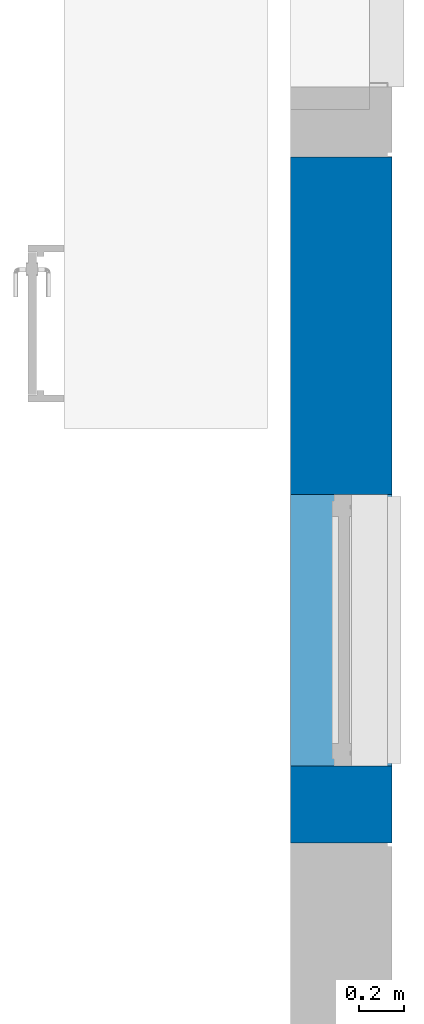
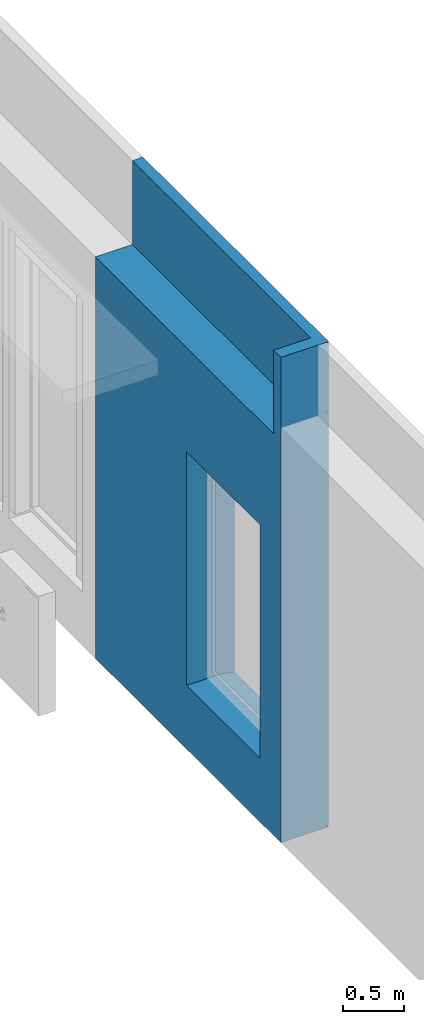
# One storey, part 21 of 33: 1 wall, 3 openings.
"""IFC2X3 building model written with IfcOpenShell, lengths in millimetres."""

from ifc_helpers import new_model, entity, si_unit, converted_unit, derived_unit, direction, frame, frame_2d, origin, place, context, subcontext, project, spatial, polyline, rectangle, extrude, clip, bounded_halfspace, faceted_brep, material, layer, layer_set, layer_usage, type_object, element, save


model = new_model("IFC2X3")

# Units and contexts
model_context = context("Model", 3, precision=0.01, world=origin(), true_north=direction((6.12303176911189e-17, 1.0)))
body_context = subcontext(model_context, "Body", "Model", "MODEL_VIEW")
ifc_project = project(units=[si_unit("LENGTHUNIT", "METRE", prefix="MILLI"), si_unit("AREAUNIT", "SQUARE_METRE"), si_unit("VOLUMEUNIT", "CUBIC_METRE"), converted_unit("PLANEANGLEUNIT", "DEGREE", entity("IfcRatioMeasure", 0.0174532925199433), si_unit("PLANEANGLEUNIT", "RADIAN"), dimensions=[0, 0, 0, 0, 0, 0, 0]), si_unit("MASSUNIT", "GRAM", prefix="KILO"), derived_unit("MASSDENSITYUNIT", [(si_unit("MASSUNIT", "GRAM", prefix="KILO"), 1), (si_unit("LENGTHUNIT", "METRE"), -3)]), si_unit("TIMEUNIT", "SECOND"), si_unit("FREQUENCYUNIT", "HERTZ"), si_unit("THERMODYNAMICTEMPERATUREUNIT", "DEGREE_CELSIUS"), derived_unit("THERMALTRANSMITTANCEUNIT", [(si_unit("MASSUNIT", "GRAM", prefix="KILO"), 1), (si_unit("THERMODYNAMICTEMPERATUREUNIT", "KELVIN"), -1), (si_unit("TIMEUNIT", "SECOND"), -3)]), derived_unit("VOLUMETRICFLOWRATEUNIT", [(si_unit("LENGTHUNIT", "METRE"), 3), (si_unit("TIMEUNIT", "SECOND"), -1)]), si_unit("ELECTRICCURRENTUNIT", "AMPERE"), si_unit("ELECTRICVOLTAGEUNIT", "VOLT"), si_unit("POWERUNIT", "WATT"), si_unit("FORCEUNIT", "NEWTON", prefix="KILO"), si_unit("ILLUMINANCEUNIT", "LUX"), si_unit("LUMINOUSFLUXUNIT", "LUMEN"), si_unit("LUMINOUSINTENSITYUNIT", "CANDELA"), derived_unit("USERDEFINED", [(si_unit("MASSUNIT", "GRAM", prefix="KILO"), -1), (si_unit("LENGTHUNIT", "METRE"), -2), (si_unit("TIMEUNIT", "SECOND"), 3), (si_unit("LUMINOUSFLUXUNIT", "LUMEN"), 1)]), derived_unit("LINEARVELOCITYUNIT", [(si_unit("LENGTHUNIT", "METRE"), 1), (si_unit("TIMEUNIT", "SECOND"), -1)]), si_unit("PRESSUREUNIT", "PASCAL"), derived_unit("USERDEFINED", [(si_unit("LENGTHUNIT", "METRE"), -2), (si_unit("MASSUNIT", "GRAM", prefix="KILO"), 1), (si_unit("TIMEUNIT", "SECOND"), -2)])], contexts=[model_context])

# Site, building, storey
site_placement = place(None, origin())
site = spatial("IfcSite", under=ifc_project, at=site_placement, Name="Default", CompositionType="ELEMENT")
building_placement = place(site_placement, origin())
building = spatial("IfcBuilding", under=site, at=building_placement, CompositionType="ELEMENT")
storey_placement = place(building_placement, frame((0.0, 0.0, 4000.0)))
storey = spatial("IfcBuildingStorey", under=building, at=storey_placement, Name="2. KORRUS", CompositionType="ELEMENT", Elevation=4000.0)

# Wall, openings
ifc_material_1 = material(Name="RECKLI 1 173 THUR by Polantis 2016-toon2")
ifc_layer_1 = layer(ifc_material_1, 100.0)
ifc_material_2 = material(Name="Soojusisolatsioon EPS")
ifc_layer_2 = layer(ifc_material_2, 200.0)
ifc_material_3 = material(Name="r/b")
ifc_layer_3 = layer(ifc_material_3, 150.0)
ifc_layer_set = layer_set([ifc_layer_1, ifc_layer_2, ifc_layer_3], Name="Basic Wall:VS-1_toon-c")
ifc_layer_usage = layer_usage(ifc_layer_set, "AXIS2", "NEGATIVE", 225.0)
wall_type = type_object("IfcWallType", Name="Basic Wall:VS-1_toon-c", PredefinedType="STANDARD", material=ifc_layer_set)
wall_placement = place(storey_placement, frame((39725.0, 15790.0, -135.0), z_axis=(0.0, 0.0, 1.0), x_axis=(0.0, -1.0, 0.0)))
wall = element("IfcWallStandardCase", 1, at=wall_placement, inside=storey, type_object=wall_type, material=ifc_layer_usage, Name="Basic Wall:VS-1_toon-c", ObjectType="Basic Wall:VS-1_toon-c", context=body_context, shape_type="Clipping", body=[
    clip(extrude(rectangle(XDim=3030.00000002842, YDim=450.000000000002, at=frame_2d((1515.00000001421, -1.86162196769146e-12), x_axis=(-1.0, 0.0))), origin(), (0.0, 0.0, 1.0), 4835.0), bounded_halfspace(frame((0.0, -225.0, 4000.0), z_axis=(0.0, 0.0, 1.0), x_axis=(0.0, 1.0, 0.0)), False, frame((0.0, -225.0, 4000.0)), polyline([(0.0, 0.0), (2910.0, 0.0), (2910.0, 350.0), (0.0, 350.0), (0.0, 0.0)]))),
])
opening_1_placement = place(wall_placement, frame((16240.0, -40175.0, 4.0)))
element("IfcOpeningElement", 2, at=opening_1_placement, cuts=wall, Name="Basic Wall:VS-1_toon-c", ObjectType="Opening", context=body_context, shape_type="Brep", body=[
    faceted_brep([(-20.0, 11850.0, 16.0), (0.0, 11850.0, 16.0), (0.0, 11850.0, 0.0), (-20.0, 11850.0, 0.0), (-20.0, 4260.0, 16.0), (-20.0, 4260.0, 0.0), (0.0, 4260.0, 0.0), (0.0, 4260.0, 16.0)], [[[0, 1, 2, 3]], [[4, 5, 6, 7]], [[1, 0, 4, 7]], [[2, 1, 7, 6]], [[3, 2, 6, 5]], [[0, 3, 5, 4]]]),
    faceted_brep([(-28480.0, 20.0, 16.0), (-28480.0, 20.0, 0.0), (-28500.0, 0.0, 0.0), (-28500.0, 0.0, 16.0), (-23740.0, 20.0, 16.0), (-23740.0, 0.0, 16.0), (-23740.0, 0.0, 0.0), (-23740.0, 20.0, 0.0)], [[[0, 1, 2, 3]], [[4, 5, 6, 7]], [[1, 0, 4, 7]], [[2, 1, 7, 6]], [[3, 2, 6, 5]], [[0, 3, 5, 4]]]),
    faceted_brep([(-22380.0517807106, 10080.0, 16.0), (-22400.0517807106, 10100.0, 16.0), (-22400.0517807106, 10100.0, 0.0), (-22380.0517807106, 10080.0, 0.0), (-22380.0517807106, 15330.3475962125, 16.0), (-22380.0517807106, 15330.3475962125, 0.0), (-22400.0517807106, 15330.3475962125, 0.0), (-22400.0517807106, 15330.3475962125, 16.0)], [[[0, 1, 2, 3]], [[4, 5, 6, 7]], [[1, 0, 4, 7]], [[2, 1, 7, 6]], [[3, 2, 6, 5]], [[0, 3, 5, 4]]]),
    faceted_brep([(-28480.0, 20.0, 16.0), (-28500.0, 0.0, 16.0), (-28500.0, 0.0, 0.0), (-28480.0, 20.0, 0.0), (-28480.0, 4360.0, 16.0), (-28480.0, 4360.0, 0.0), (-28500.0, 4360.0, 0.0), (-28500.0, 4360.0, 16.0)], [[[0, 1, 2, 3]], [[4, 5, 6, 7]], [[1, 0, 4, 7]], [[2, 1, 7, 6]], [[3, 2, 6, 5]], [[0, 3, 5, 4]]]),
    faceted_brep([(-20.0, 40380.0, 16.0), (0.0, 40400.0, 16.0), (0.0, 40400.0, 0.0), (-20.0, 40380.0, 0.0), (-20.0, 35250.0, 16.0), (-20.0, 35250.0, 0.0), (0.0, 35250.0, 0.0), (0.0, 35250.0, 16.0)], [[[0, 1, 2, 3]], [[4, 5, 6, 7]], [[1, 0, 4, 7]], [[2, 1, 7, 6]], [[3, 2, 6, 5]], [[0, 3, 5, 4]]]),
    faceted_brep([(-22380.0517807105, 34420.103570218, 16.0), (-22400.0517807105, 34420.103570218, 16.0), (-22400.0517807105, 34420.103570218, 0.0), (-22380.0517807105, 34420.103570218, 0.0), (-22380.0517807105, 40380.0, 16.0), (-22380.0517807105, 40380.0, 0.0), (-22400.0517807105, 40400.0, 0.0), (-22400.0517807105, 40400.0, 16.0)], [[[0, 1, 2, 3]], [[4, 5, 6, 7]], [[1, 0, 4, 7]], [[2, 1, 7, 6]], [[3, 2, 6, 5]], [[0, 3, 5, 4]]]),
    faceted_brep([(-22380.0517807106, 29113.2161487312, 16.0), (-22400.0517807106, 29113.2161487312, 16.0), (-22400.0517807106, 29113.2161487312, 0.0), (-22380.0517807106, 29113.2161487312, 0.0), (-22380.0517807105, 34420.103570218, 16.0), (-22380.0517807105, 34420.103570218, 0.0), (-22400.0517807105, 34420.103570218, 0.0), (-22400.0517807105, 34420.103570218, 16.0)], [[[0, 1, 2, 3]], [[4, 5, 6, 7]], [[1, 0, 4, 7]], [[2, 1, 7, 6]], [[3, 2, 6, 5]], [[0, 3, 5, 4]]]),
    faceted_brep([(-28480.0, 10080.0, 16.0), (-28500.0, 10100.0, 16.0), (-28500.0, 10100.0, 0.0), (-28480.0, 10080.0, 0.0), (-22380.0517807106, 10080.0, 16.0), (-22380.0517807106, 10080.0, 0.0), (-22400.0517807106, 10100.0, 0.0), (-22400.0517807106, 10100.0, 16.0)], [[[0, 1, 2, 3]], [[4, 5, 6, 7]], [[1, 0, 4, 7]], [[2, 1, 7, 6]], [[3, 2, 6, 5]], [[0, 3, 5, 4]]]),
    faceted_brep([(-20.0, 4260.0, 16.0), (0.0, 4260.0, 16.0), (0.0, 4260.0, 0.0), (-20.0, 4260.0, 0.0), (-20.0, 0.0, 16.0), (-20.0, 0.0, 0.0), (0.0, 0.0, 0.0), (0.0, 0.0, 16.0)], [[[0, 1, 2, 3]], [[4, 5, 6, 7]], [[1, 0, 4, 7]], [[2, 1, 7, 6]], [[3, 2, 6, 5]], [[0, 3, 5, 4]]]),
    faceted_brep([(-4865.0, 40380.0, 16.0), (-4865.0, 40400.0, 16.0), (-4865.0, 40400.0, 0.0), (-4865.0, 40380.0, 0.0), (-20.0, 40380.0, 16.0), (-20.0, 40380.0, 0.0), (0.0, 40400.0, 0.0), (0.0, 40400.0, 16.0)], [[[0, 1, 2, 3]], [[4, 5, 6, 7]], [[1, 0, 4, 7]], [[2, 1, 7, 6]], [[3, 2, 6, 5]], [[0, 3, 5, 4]]]),
    faceted_brep([(-9093.33000000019, 40380.0, 16.0), (-9093.33000000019, 40400.0, 16.0), (-9093.33000000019, 40400.0, 0.0), (-9093.33000000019, 40380.0, 0.0), (-4865.0, 40380.0, 16.0), (-4865.0, 40380.0, 0.0), (-4865.0, 40400.0, 0.0), (-4865.0, 40400.0, 16.0)], [[[0, 1, 2, 3]], [[4, 5, 6, 7]], [[1, 0, 4, 7]], [[2, 1, 7, 6]], [[3, 2, 6, 5]], [[0, 3, 5, 4]]]),
    faceted_brep([(-13210.0, 40380.0, 16.0), (-13210.0, 40400.0, 16.0), (-13210.0, 40400.0, 0.0), (-13210.0, 40380.0, 0.0), (-9093.33000000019, 40380.0, 16.0), (-9093.33000000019, 40380.0, 0.0), (-9093.33000000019, 40400.0, 0.0), (-9093.33000000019, 40400.0, 16.0)], [[[0, 1, 2, 3]], [[4, 5, 6, 7]], [[1, 0, 4, 7]], [[2, 1, 7, 6]], [[3, 2, 6, 5]], [[0, 3, 5, 4]]]),
    faceted_brep([(-16240.0, 40380.0, 16.0), (-16240.0, 40400.0, 16.0), (-16240.0, 40400.0, 0.0), (-16240.0, 40380.0, 0.0), (-13210.0, 40380.0, 16.0), (-13210.0, 40380.0, 0.0), (-13210.0, 40400.0, 0.0), (-13210.0, 40400.0, 16.0)], [[[0, 1, 2, 3]], [[4, 5, 6, 7]], [[1, 0, 4, 7]], [[2, 1, 7, 6]], [[3, 2, 6, 5]], [[0, 3, 5, 4]]]),
    faceted_brep([(-22380.0517807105, 40380.0, 16.0), (-22400.0517807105, 40400.0, 16.0), (-22400.0517807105, 40400.0, 0.0), (-22380.0517807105, 40380.0, 0.0), (-16240.0, 40380.0, 16.0), (-16240.0, 40380.0, 0.0), (-16240.0, 40400.0, 0.0), (-16240.0, 40400.0, 16.0)], [[[0, 1, 2, 3]], [[4, 5, 6, 7]], [[1, 0, 4, 7]], [[2, 1, 7, 6]], [[3, 2, 6, 5]], [[0, 3, 5, 4]]]),
    faceted_brep([(-22380.0517807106, 22535.0, 16.0), (-22400.0517807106, 22535.0, 16.0), (-22400.0517807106, 22535.0, 0.0), (-22380.0517807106, 22535.0, 0.0), (-22380.0517807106, 29113.2161487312, 16.0), (-22380.0517807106, 29113.2161487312, 0.0), (-22400.0517807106, 29113.2161487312, 0.0), (-22400.0517807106, 29113.2161487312, 16.0)], [[[0, 1, 2, 3]], [[4, 5, 6, 7]], [[1, 0, 4, 7]], [[2, 1, 7, 6]], [[3, 2, 6, 5]], [[0, 3, 5, 4]]]),
    faceted_brep([(-22380.0517807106, 18703.3528910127, 16.0), (-22400.0517807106, 18703.3528910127, 16.0), (-22400.0517807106, 18703.3528910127, 0.0), (-22380.0517807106, 18703.3528910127, 0.0), (-22380.0517807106, 22535.0, 16.0), (-22380.0517807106, 22535.0, 0.0), (-22400.0517807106, 22535.0, 0.0), (-22400.0517807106, 22535.0, 16.0)], [[[0, 1, 2, 3]], [[4, 5, 6, 7]], [[1, 0, 4, 7]], [[2, 1, 7, 6]], [[3, 2, 6, 5]], [[0, 3, 5, 4]]]),
    faceted_brep([(-22380.0517807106, 15330.3475962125, 16.0), (-22400.0517807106, 15330.3475962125, 16.0), (-22400.0517807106, 15330.3475962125, 0.0), (-22380.0517807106, 15330.3475962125, 0.0), (-22380.0517807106, 18703.3528910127, 16.0), (-22380.0517807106, 18703.3528910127, 0.0), (-22400.0517807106, 18703.3528910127, 0.0), (-22400.0517807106, 18703.3528910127, 16.0)], [[[0, 1, 2, 3]], [[4, 5, 6, 7]], [[1, 0, 4, 7]], [[2, 1, 7, 6]], [[3, 2, 6, 5]], [[0, 3, 5, 4]]]),
    faceted_brep([(-28480.0, 4360.0, 16.0), (-28500.0, 4360.0, 16.0), (-28500.0, 4360.0, 0.0), (-28480.0, 4360.0, 0.0), (-28480.0, 10080.0, 16.0), (-28480.0, 10080.0, 0.0), (-28500.0, 10100.0, 0.0), (-28500.0, 10100.0, 16.0)], [[[0, 1, 2, 3]], [[4, 5, 6, 7]], [[1, 0, 4, 7]], [[2, 1, 7, 6]], [[3, 2, 6, 5]], [[0, 3, 5, 4]]]),
    faceted_brep([(-23740.0, 20.0, 16.0), (-23740.0, 20.0, 0.0), (-23740.0, 0.0, 0.0), (-23740.0, 0.0, 16.0), (-16890.0006972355, 20.0, 16.0), (-16890.0006972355, 0.0, 16.0), (-16890.0006972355, 0.0, 0.0), (-16890.0006972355, 20.0, 0.0)], [[[0, 1, 2, 3]], [[4, 5, 6, 7]], [[1, 0, 4, 7]], [[2, 1, 7, 6]], [[3, 2, 6, 5]], [[0, 3, 5, 4]]]),
    faceted_brep([(-16890.0006972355, 20.0, 16.0), (-16890.0006972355, 20.0, 0.0), (-16890.0006972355, 0.0, 0.0), (-16890.0006972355, 0.0, 16.0), (-13460.0, 20.0, 16.0), (-13460.0, 0.0, 16.0), (-13460.0, 0.0, 0.0), (-13460.0, 20.0, 0.0)], [[[0, 1, 2, 3]], [[4, 5, 6, 7]], [[1, 0, 4, 7]], [[2, 1, 7, 6]], [[3, 2, 6, 5]], [[0, 3, 5, 4]]]),
])
opening_2_placement = place(wall_placement, origin())
element("IfcOpeningElement", 3, at=opening_2_placement, cuts=wall, Name="Basic Wall:VS-1_toon-c", ObjectType="Recess", context=body_context, shape_type="SweptSolid", body=[
    extrude(rectangle(XDim=15.9999999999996, YDim=20.0, at=frame_2d((-3.37507799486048e-14, 5.40900657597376e-13), x_axis=(0.0, 1.0))), frame((16230.0, -35915.0, 4147.0), z_axis=(0.0, 1.0, 0.0), x_axis=(1.0, 0.0, 0.0)), (0.0, 0.0, 1.0), 7590.0),
    extrude(rectangle(XDim=15.9999999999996, YDim=4660.0, at=frame_2d((-2.27373675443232e-12, 5.40900657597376e-13), x_axis=(0.0, 1.0))), frame((-9830.0, -40175.0, 4147.0), z_axis=(0.0, 1.0, 0.0), x_axis=(1.0, 0.0, 0.0)), (0.0, 0.0, 1.0), 20.0000000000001),
    extrude(rectangle(XDim=15.9999999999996, YDim=19.9999999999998, at=frame_2d((5.40900657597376e-13, -2.16626716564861e-12), x_axis=(1.0, 0.0))), frame((-6150.05178071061, -30075.0, 4147.0), z_axis=(0.0, 1.0, 0.0), x_axis=(0.0, 0.0, -1.0)), (0.0, 0.0, 1.0), 5230.3475962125),
    extrude(rectangle(XDim=15.9999999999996, YDim=19.9999999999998, at=frame_2d((5.40900657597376e-13, -2.16626716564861e-12), x_axis=(1.0, 0.0))), frame((-12250.0, -40175.0, 4147.0), z_axis=(0.0, 1.0, 0.0), x_axis=(0.0, 0.0, -1.0)), (0.0, 0.0, 1.0), 4360.0),
    extrude(rectangle(XDim=15.9999999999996, YDim=20.0, at=frame_2d((-3.37507799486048e-14, -5.40900657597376e-13), x_axis=(0.0, 1.0))), frame((16230.0, -4925.0, 4147.0), z_axis=(0.0, 1.0, 0.0), x_axis=(1.0, 0.0, 0.0)), (0.0, 0.0, 1.0), 5050.0),
    extrude(rectangle(XDim=15.9999999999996, YDim=19.9999999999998, at=frame_2d((5.40900657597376e-13, -2.16626716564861e-12), x_axis=(1.0, 0.0))), frame((-6150.05178071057, -5754.89642978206, 4147.0), z_axis=(0.0, 1.0, 0.0), x_axis=(0.0, 0.0, -1.0)), (0.0, 0.0, 1.0), 5979.89642978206),
    extrude(rectangle(XDim=15.9999999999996, YDim=19.9999999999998, at=frame_2d((5.40900657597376e-13, -2.16626716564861e-12), x_axis=(1.0, 0.0))), frame((-6150.05178071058, -11061.7838512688, 4147.0), z_axis=(0.0, 1.0, 0.0), x_axis=(0.0, 0.0, -1.0)), (0.0, 0.0, 1.0), 5306.88742148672),
    extrude(rectangle(XDim=15.9999999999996, YDim=6099.94821928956, at=frame_2d((0.0, 0.0), x_axis=(0.0, 1.0))), frame((-9110.02589035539, -30095.0, 4147.0), z_axis=(0.0, 1.0, 0.0), x_axis=(1.0, 0.0, 0.0)), (0.0, 0.0, 1.0), 19.9999999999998),
    extrude(rectangle(XDim=15.9999999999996, YDim=20.0, at=frame_2d((-3.37507799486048e-14, 5.40900657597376e-13), x_axis=(0.0, 1.0))), frame((16230.0, -40075.0, 4147.0), z_axis=(0.0, 1.0, 0.0), x_axis=(1.0, 0.0, 0.0)), (0.0, 0.0, 1.0), 4160.00000000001),
    extrude(rectangle(XDim=15.9999999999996, YDim=4865.0, at=frame_2d((0.0, 5.40900657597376e-13), x_axis=(0.0, 1.0))), frame((13807.4999999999, 205.0, 4147.0), z_axis=(0.0, 1.0, 0.0), x_axis=(1.0, 0.0, 0.0)), (0.0, 0.0, 1.0), 20.0000000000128),
    extrude(rectangle(XDim=15.9999999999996, YDim=4228.33000000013, at=frame_2d((0.0, 0.0), x_axis=(0.0, 1.0))), frame((9260.83499999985, 205.0, 4147.0), z_axis=(0.0, 1.0, 0.0), x_axis=(1.0, 0.0, 0.0)), (0.0, 0.0, 1.0), 20.0000000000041),
    extrude(rectangle(XDim=15.9999999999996, YDim=4236.66999997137, at=frame_2d((1.13686837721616e-12, 0.0), x_axis=(0.0, 1.0))), frame((5028.3350000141, 205.0, 4147.0), z_axis=(0.0, 1.0, 0.0), x_axis=(1.0, 0.0, 0.0)), (0.0, 0.0, 1.0), 19.9999999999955),
    extrude(rectangle(XDim=15.9999999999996, YDim=2910.00000002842, at=frame_2d((2.1600499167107e-12, 5.40900657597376e-13), x_axis=(0.0, 1.0))), frame((1455.0, 205.0, 4147.0), z_axis=(0.0, 1.0, 0.0), x_axis=(1.0, 0.0, 0.0)), (0.0, 0.0, 1.0), 20.0000000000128),
    extrude(rectangle(XDim=15.9999999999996, YDim=6060.05178071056, at=frame_2d((0.0, 0.0), x_axis=(0.0, 1.0))), frame((-3030.02589035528, 205.0, 4147.0), z_axis=(0.0, 1.0, 0.0), x_axis=(1.0, 0.0, 0.0)), (0.0, 0.0, 1.0), 19.9999999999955),
    extrude(rectangle(XDim=15.9999999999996, YDim=19.9999999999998, at=frame_2d((5.40900657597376e-13, -2.16626716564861e-12), x_axis=(1.0, 0.0))), frame((-6150.0517807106, -21471.6471089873, 4147.0), z_axis=(0.0, 1.0, 0.0), x_axis=(0.0, 0.0, -1.0)), (0.0, 0.0, 1.0), 3831.64710898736),
    extrude(rectangle(XDim=15.9999999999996, YDim=19.9999999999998, at=frame_2d((5.40900657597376e-13, -2.16626716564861e-12), x_axis=(1.0, 0.0))), frame((-6150.0517807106, -24844.6524037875, 4147.0), z_axis=(0.0, 1.0, 0.0), x_axis=(0.0, 0.0, -1.0)), (0.0, 0.0, 1.0), 3373.00529480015),
    extrude(rectangle(XDim=15.9999999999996, YDim=19.9999999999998, at=frame_2d((5.40900657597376e-13, 2.16626716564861e-12), x_axis=(1.0, 0.0))), frame((-12250.0, -35815.0, 4147.0), z_axis=(0.0, 1.0, 0.0), x_axis=(0.0, 0.0, -1.0)), (0.0, 0.0, 1.0), 5739.99999999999),
    extrude(rectangle(XDim=15.9999999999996, YDim=6849.99930276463, at=frame_2d((1.13686837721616e-12, 5.40900657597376e-13), x_axis=(0.0, 1.0))), frame((-4075.00034861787, -40175.0, 4147.0), z_axis=(0.0, 1.0, 0.0), x_axis=(1.0, 0.0, 0.0)), (0.0, 0.0, 1.0), 20.0),
    extrude(rectangle(XDim=15.9999999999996, YDim=3430.00069726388, at=frame_2d((1.02318153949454e-12, 5.40900657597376e-13), x_axis=(0.0, 1.0))), frame((1064.99965139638, -40175.0, 4147.0), z_axis=(0.0, 1.0, 0.0), x_axis=(1.0, 0.0, 0.0)), (0.0, 0.0, 1.0), 20.0000000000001),
    extrude(rectangle(XDim=15.9999999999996, YDim=19.9999999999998, at=frame_2d((5.40900657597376e-13, -2.16626716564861e-12), x_axis=(1.0, 0.0))), frame((-6150.05178071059, -17640.0, 4147.0), z_axis=(0.0, 1.0, 0.0), x_axis=(0.0, 0.0, -1.0)), (0.0, 0.0, 1.0), 6578.21614873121),
    extrude(rectangle(XDim=15.9999999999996, YDim=20.0, at=frame_2d((-3.37507799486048e-14, 5.40900657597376e-13), x_axis=(0.0, 1.0))), frame((16230.0, -28325.0, 4147.0), z_axis=(0.0, 1.0, 0.0), x_axis=(1.0, 0.0, 0.0)), (0.0, 0.0, 1.0), 4110.00000000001),
    extrude(rectangle(XDim=15.9999999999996, YDim=20.0, at=frame_2d((-3.37507799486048e-14, 5.40900657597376e-13), x_axis=(0.0, 1.0))), frame((16230.0, -24215.0, 4147.0), z_axis=(0.0, 1.0, 0.0), x_axis=(1.0, 0.0, 0.0)), (0.0, 0.0, 1.0), 4600.0),
    extrude(rectangle(XDim=15.9999999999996, YDim=20.0, at=frame_2d((3.37507799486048e-14, 5.40900657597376e-13), x_axis=(0.0, 1.0))), frame((16230.0, -19615.0, 4147.0), z_axis=(0.0, 1.0, 0.0), x_axis=(1.0, 0.0, 0.0)), (0.0, 0.0, 1.0), 4600.0),
    extrude(rectangle(XDim=15.9999999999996, YDim=20.0, at=frame_2d((3.37507799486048e-14, 5.40900657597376e-13), x_axis=(0.0, 1.0))), frame((16230.0, -15015.0, 4147.0), z_axis=(0.0, 1.0, 0.0), x_axis=(1.0, 0.0, 0.0)), (0.0, 0.0, 1.0), 5299.99999999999),
    extrude(rectangle(XDim=15.9999999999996, YDim=20.0, at=frame_2d((-3.37507799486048e-14, 5.40900657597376e-13), x_axis=(0.0, 1.0))), frame((16230.0, -9715.0, 4147.0), z_axis=(0.0, 1.0, 0.0), x_axis=(1.0, 0.0, 0.0)), (0.0, 0.0, 1.0), 4790.0),
    extrude(rectangle(XDim=15.9999999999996, YDim=4724.85920481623, at=frame_2d((6.82121026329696e-13, 5.40900657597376e-13), x_axis=(0.0, 1.0))), frame((5142.42960243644, -40175.0, 4147.0), z_axis=(0.0, 1.0, 0.0), x_axis=(1.0, 0.0, 0.0)), (0.0, 0.0, 1.0), 20.0000000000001),
    extrude(rectangle(XDim=15.9999999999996, YDim=8735.1407951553, at=frame_2d((0.0, 5.40900657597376e-13), x_axis=(0.0, 1.0))), frame((11872.4296024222, -40175.0, 4147.0), z_axis=(0.0, 1.0, 0.0), x_axis=(1.0, 0.0, 0.0)), (0.0, 0.0, 1.0), 20.0),
])
opening_3_placement = place(wall_placement, frame((2690.0, -225.0, 613.057009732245), z_axis=(0.0, 0.0, 1.0), x_axis=(0.0, 1.0, 0.0)))
element("IfcOpeningElement", 4, at=opening_3_placement, cuts=wall, Name="Basic Wall:VS-1_toon-c", ObjectType="Opening", context=body_context, shape_type="Brep", body=[
    faceted_brep([(0.0, 0.0, 2346.94299026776), (250.0, 0.0, 2346.94299026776), (250.0, 1200.0, 2346.94299026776), (0.0, 1200.0, 2346.94299026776), (0.0, 0.0, 21.9429902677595), (325.555118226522, 0.0, 21.9429902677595), (450.0, 0.0, 0.0), (450.0, 0.0, 2721.94299026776), (250.0, 0.0, 2721.94299026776), (0.0, 1200.0, 21.9429902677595), (450.0, 1200.0, 0.0), (450.0, 1200.0, 2721.94299026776), (250.0, 1200.0, 2721.94299026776), (325.555118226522, 1200.0, 21.9429902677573)], [[[0, 1, 2, 3]], [[4, 5, 6, 7, 8, 1, 0]], [[3, 9, 4, 0]], [[7, 6, 10, 11]], [[3, 2, 12, 11, 10, 13, 9]], [[9, 13, 5, 4]], [[12, 2, 1, 8]], [[8, 7, 11, 12]], [[10, 6, 5, 13]]]),
])

save(model, "model.ifc")
